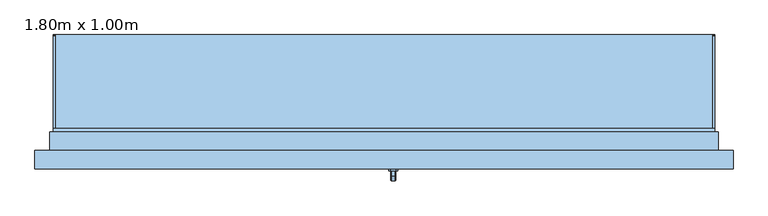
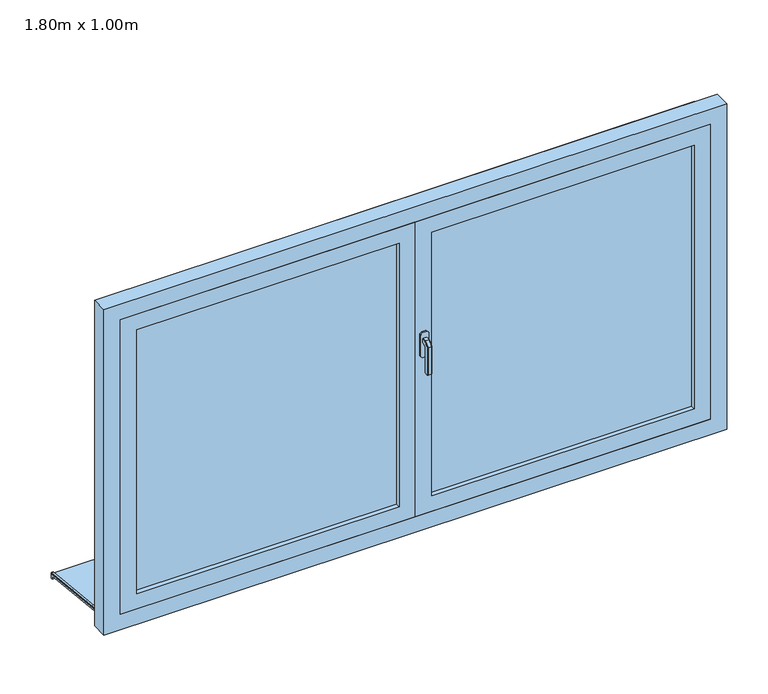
"""IFC4 building model written with IfcOpenShell, lengths in millimetres: window geometry, 2 Vantaux - Droits : 1.80m x 1.00m."""

import ifcopenshell
import ifcopenshell.guid

model = None  # the IFC model being written
_history = None  # IfcOwnerHistory: only IFC2X3 demands one
_inside = {}  # id of a spatial element -> (the spatial element, [elements in it])
_under = {}  # id of a project, library or spatial element -> (it, [spatial elements below it])
_declared = {}  # id of a project -> (the project, [libraries it declares])
_typed = {}  # id of a type object -> (the type object, [elements of that type])
_made_of = {}  # id of a material, layer set ... -> (it, [elements and type objects made of it])


def new_model(schema):
    """Start an empty IFC model of exactly this schema.

    Asked for "IFC4X3", IfcOpenShell would pick the latest addendum, in which some entities
    have other attributes; the version numbers below select the first issue.
    IFC2X3 requires an IfcOwnerHistory on every rooted entity: one is made here for all.
    """
    global model, _history
    if schema == "IFC4X3":
        model = ifcopenshell.file(schema_version=(4, 3, 0, 0))
    else:
        model = ifcopenshell.file(schema=schema)
    _inside.clear()
    _under.clear()
    _declared.clear()
    _typed.clear()
    _made_of.clear()
    _history = None
    if model.schema == "IFC2X3":
        org = make("IfcOrganization", Name="unknown")
        user = make(
            "IfcPersonAndOrganization",
            ThePerson=make("IfcPerson", FamilyName="unknown"),
            TheOrganization=org,
        )
        app = make(
            "IfcApplication",
            ApplicationDeveloper=org,
            Version="unknown",
            ApplicationFullName="unknown",
            ApplicationIdentifier="unknown",
        )
        _history = make(
            "IfcOwnerHistory",
            OwningUser=user,
            OwningApplication=app,
            ChangeAction="ADDED",
            CreationDate=0,
        )
    return model


def make(cls, **values):
    """One entity of the class cls with the attributes given. An attribute that is None is left unset."""
    return model.create_entity(
        cls, **{name: value for name, value in values.items() if value is not None}
    )


def rooted(cls, **values):
    """An entity with a GlobalId (a new one), such as an element, a storey or a relation."""
    return make(cls, GlobalId=ifcopenshell.guid.new(), OwnerHistory=_history, **values)


def si_unit(unit_type, name, prefix=None):
    """IfcSIUnit, for example si_unit("LENGTHUNIT", "METRE", prefix="MILLI")."""
    return make("IfcSIUnit", UnitType=unit_type, Prefix=prefix, Name=name)


def assignment(units):
    """IfcUnitAssignment: the units of a project."""
    return None if units is None else make("IfcUnitAssignment", Units=units)


def point(xyz):
    """IfcCartesianPoint."""
    return None if xyz is None else make("IfcCartesianPoint", Coordinates=xyz)


def direction(xyz):
    """IfcDirection."""
    return None if xyz is None else make("IfcDirection", DirectionRatios=xyz)


def frame(location, z_axis=None, x_axis=None):
    """IfcAxis2Placement3D, a coordinate frame: its origin and axes. An axis left out is left unset."""
    return make(
        "IfcAxis2Placement3D",
        Location=point(location),
        Axis=direction(z_axis),
        RefDirection=direction(x_axis),
    )


def frame_2d(location, x_axis=None):
    """IfcAxis2Placement2D, a coordinate frame in the plane: its origin and x axis."""
    return make(
        "IfcAxis2Placement2D", Location=point(location), RefDirection=direction(x_axis)
    )


def origin():
    """The frame at (0, 0, 0) with its axes left unset."""
    return frame((0.0, 0.0, 0.0))


def place(relative_to, where):
    """IfcLocalPlacement: puts the frame where relative to a parent placement (None: the world)."""
    return make(
        "IfcLocalPlacement", PlacementRelTo=relative_to, RelativePlacement=where
    )


def context(
    kind, dimensions, precision=None, world=None, true_north=None, identifier=None
):
    """IfcGeometricRepresentationContext, for example the 3D "Model" context."""
    return make(
        "IfcGeometricRepresentationContext",
        ContextIdentifier=identifier,
        ContextType=kind,
        CoordinateSpaceDimension=dimensions,
        Precision=precision,
        WorldCoordinateSystem=world,
        TrueNorth=true_north,
    )


def project(units=None, contexts=None):
    """IfcProject with its units and contexts."""
    return rooted(
        "IfcProject",
        Name="project",
        RepresentationContexts=contexts,
        UnitsInContext=assignment(units),
    )


def spatial(cls, under=None, at=None, **own):
    """A site, building, storey or space (cls), placed at a placement, below another one or the project."""
    s = rooted(cls, ObjectPlacement=at, **own)
    if under is not None:
        _under.setdefault(under.id(), (under, []))[1].append(s)
    return s


def polyline(points):
    """IfcPolyline through the points."""
    return make("IfcPolyline", Points=[point(p) for p in points])


def circle_curve(where, radius):
    """IfcCircle in the frame where."""
    return make("IfcCircle", Position=where, Radius=radius)


def trimmed(basis, trim1, trim2, sense, master):
    """IfcTrimmedCurve: the piece of a basis curve between two trims."""
    return make(
        "IfcTrimmedCurve",
        BasisCurve=basis,
        Trim1=trim1,
        Trim2=trim2,
        SenseAgreement=sense,
        MasterRepresentation=master,
    )


def segment(curve, same_sense, transition):
    """IfcCompositeCurveSegment."""
    return make(
        "IfcCompositeCurveSegment",
        Transition=transition,
        SameSense=same_sense,
        ParentCurve=curve,
    )


def composite_curve(segments, self_intersect=None):
    """IfcCompositeCurve: segments joined end to end."""
    return make("IfcCompositeCurve", Segments=segments, SelfIntersect=self_intersect)


def outline(outer, holes=None, kind="AREA"):
    """IfcArbitraryClosedProfileDef: a profile drawn as a closed curve; with holes, ...WithVoids."""
    if holes is None:
        return make("IfcArbitraryClosedProfileDef", ProfileType=kind, OuterCurve=outer)
    return make(
        "IfcArbitraryProfileDefWithVoids",
        ProfileType=kind,
        OuterCurve=outer,
        InnerCurves=holes,
    )


def extrude(swept, where, along, depth):
    """IfcExtrudedAreaSolid: the profile swept, set in the frame where, extruded along a direction by depth."""
    return make(
        "IfcExtrudedAreaSolid",
        SweptArea=swept,
        Position=where,
        ExtrudedDirection=direction(along),
        Depth=depth,
    )


def faces_of(points, faces, orient=None, outer=None):
    """IfcFace entities. A face is a list of loops; a loop is a list of indices into points, from 0.

    orient and outer hold one flag for each loop. By default every Orientation is true, the
    first loop of a face is its IfcFaceOuterBound and the others are IfcFaceBound.
    """
    made = []
    for i, loops in enumerate(faces):
        bounds = []
        for j, loop in enumerate(loops):
            is_outer = j == 0 if outer is None else outer[i][j]
            bounds.append(
                make(
                    "IfcFaceOuterBound" if is_outer else "IfcFaceBound",
                    Bound=make("IfcPolyLoop", Polygon=[points[k] for k in loop]),
                    Orientation=True if orient is None else orient[i][j],
                )
            )
        made.append(make("IfcFace", Bounds=bounds))
    return made


def faceted_brep(points, faces, orient=None, outer=None, voids=None):
    """IfcFacetedBrep: a solid bounded by flat faces; with voids (closed shells), ...WithVoids."""
    shared = [point(p) for p in points]
    hull = make("IfcClosedShell", CfsFaces=faces_of(shared, faces, orient, outer))
    if voids is None:
        return make("IfcFacetedBrep", Outer=hull)
    return make(
        "IfcFacetedBrepWithVoids",
        Outer=hull,
        Voids=[
            make(cls, CfsFaces=faces_of(shared, fs, o, b)) for cls, fs, o, b in voids
        ],
    )


def shape(context_of_items, identifier, shape_type, items):
    """IfcShapeRepresentation: the items that make up one representation, for example the "Body"."""
    return make(
        "IfcShapeRepresentation",
        ContextOfItems=context_of_items,
        RepresentationIdentifier=identifier,
        RepresentationType=shape_type,
        Items=items,
    )


def source(mapping_origin, context_of_items, identifier, shape_type, items):
    """IfcRepresentationMap: a shape defined once, which mapped items show again and again."""
    return make(
        "IfcRepresentationMap",
        MappingOrigin=mapping_origin,
        MappedRepresentation=shape(context_of_items, identifier, shape_type, items),
    )


def transform(
    local_origin,
    x_axis=None,
    y_axis=None,
    z_axis=None,
    scale=None,
    scale2=None,
    scale3=None,
    uniform=True,
):
    """IfcCartesianTransformationOperator3D, or its non-uniform kind. x_axis, y_axis, z_axis: its Axis1, 2, 3."""
    if uniform:
        return make(
            "IfcCartesianTransformationOperator3D",
            Axis1=direction(x_axis),
            Axis2=direction(y_axis),
            LocalOrigin=point(local_origin),
            Scale=scale,
            Axis3=direction(z_axis),
        )
    return make(
        "IfcCartesianTransformationOperator3DnonUniform",
        Axis1=direction(x_axis),
        Axis2=direction(y_axis),
        LocalOrigin=point(local_origin),
        Scale=scale,
        Axis3=direction(z_axis),
        Scale2=scale2,
        Scale3=scale3,
    )


def mapped(mapping_source, mapping_target):
    """IfcMappedItem: shows the shape of a source again, moved by a transform."""
    return make(
        "IfcMappedItem", MappingSource=mapping_source, MappingTarget=mapping_target
    )


def made_of(thing, what):
    """Note that an element or type object is made of a material, layer set ...; save() writes the relation."""
    if what is not None:
        _made_of.setdefault(what.id(), (what, []))[1].append(thing)
    return thing


def element(
    cls,
    number,
    at=None,
    inside=None,
    cuts=None,
    type_object=None,
    material=None,
    context=None,
    identifier="Body",
    shape_type=None,
    held_by="IfcProductDefinitionShape",
    body=None,
    shapes=None,
    **own,
):
    """One element of the class cls, such as IfcWall. Its Tag is "e" and its number.

    at: its placement. inside: the storey or other place that contains it. cuts: it is an
    opening in that element (IfcRelVoidsElement). A single representation is given by context,
    identifier, shape_type and body (its items); several are given by shapes. held_by: the class
    of the entity that holds the representations. save() writes the other relations.
    """
    e = rooted(cls, Tag="e%d" % number, ObjectPlacement=at, **own)
    if body is not None:
        shapes = [shape(context, identifier, shape_type, body)]
    if shapes is not None:
        e.Representation = make(held_by, Representations=shapes)
    if inside is not None:
        _inside.setdefault(inside.id(), (inside, []))[1].append(e)
    if cuts is not None:
        rooted(
            "IfcRelVoidsElement", RelatingBuildingElement=cuts, RelatedOpeningElement=e
        )
    if type_object is not None:
        _typed.setdefault(type_object.id(), (type_object, []))[1].append(e)
    return made_of(e, material)


def aggregate(whole, parts):
    """IfcRelAggregates: a whole, such as a stair, and the parts it consists of."""
    return rooted("IfcRelAggregates", RelatingObject=whole, RelatedObjects=parts)


def save(model, path):
    """Write the relations noted so far, then the file.

    IfcRelAggregates (storeys below a building ...), IfcRelContainedInSpatialStructure (elements
    in a storey), IfcRelDefinesByType, IfcRelAssociatesMaterial and IfcRelDeclares: one each for
    every whole, place, type object, material and project.
    """
    for whole, parts in _under.values():
        aggregate(whole, parts)
    for where, things in _inside.values():
        rooted(
            "IfcRelContainedInSpatialStructure",
            RelatedElements=things,
            RelatingStructure=where,
        )
    for kind, things in _typed.values():
        rooted("IfcRelDefinesByType", RelatedObjects=things, RelatingType=kind)
    for what, things in _made_of.values():
        rooted("IfcRelAssociatesMaterial", RelatedObjects=things, RelatingMaterial=what)
    for by, libraries in _declared.values():
        rooted("IfcRelDeclares", RelatingContext=by, RelatedDefinitions=libraries)
    model.write(path)


def window_1_80m_x_1_00m_00121215(model_context):
    return source(origin(), model_context, "Body", "SolidModel", [
        faceted_brep([(30.6460097, -181.0, 1422.0339292), (32.0339292, -181.0, 1420.6460097), (32.0339292, -181.0, 1409.3323012), (30.6676988, -181.0, 1407.9660708), (19.3323012, -181.0, 1407.9660708), (17.9660708, -181.0, 1409.3323012), (17.9660708, -181.0, 1420.6460097), (19.3539903, -181.0, 1422.0339292), (30.6460097, -193.9135489, 1422.0339292), (32.0339292, -193.3386538, 1420.6460097), (32.0339292, -206.6460097, 1407.3386538), (32.0339292, -206.6460097, 1320.0), (32.0339292, -195.3323012, 1320.0), (32.0339292, -195.3323012, 1402.6523623), (32.0339292, -188.6523623, 1409.3323012), (30.6676988, -188.0864511, 1407.9660708), (19.3323012, -188.0864511, 1407.9660708), (17.9660708, -188.6523623, 1409.3323012), (17.9660708, -195.3323012, 1402.6523623), (17.9660708, -195.3323012, 1320.0), (17.9660708, -206.6460097, 1320.0), (17.9660708, -206.6460097, 1407.3386538), (17.9660708, -193.3386538, 1420.6460097), (19.3539903, -193.9135489, 1422.0339292), (30.6460097, -208.0339292, 1407.9135489), (30.6676988, -193.9660708, 1402.0864511), (19.3323012, -193.9660708, 1402.0864511), (19.3539903, -208.0339292, 1407.9135489), (30.6460097, -208.0339292, 1320.0), (19.3539903, -208.0339292, 1320.0), (19.3323012, -193.9660708, 1320.0), (30.6676988, -193.9660708, 1320.0)], [[[0, 1, 2, 3, 4, 5, 6, 7]], [[1, 0, 8, 9]], [[2, 1, 9, 10, 11, 12, 13, 14]], [[3, 2, 14, 15]], [[4, 3, 15, 16]], [[5, 4, 16, 17]], [[6, 5, 17, 18, 19, 20, 21, 22]], [[7, 6, 22, 23]], [[0, 7, 23, 8]], [[9, 8, 24, 10]], [[15, 14, 13, 25]], [[16, 15, 25, 26]], [[17, 16, 26, 18]], [[23, 22, 21, 27]], [[8, 23, 27, 24]], [[28, 29, 20, 19, 30, 31, 12, 11]], [[10, 24, 28, 11]], [[25, 13, 12, 31]], [[26, 25, 31, 30]], [[18, 26, 30, 19]], [[27, 21, 20, 29]], [[24, 27, 29, 28]]]),
        extrude(outline(polyline([(1440.0, 32.0), (1440.0, 18.0), (1435.0, 13.0), (1365.0, 13.0), (1360.0, 18.0), (1360.0, 32.0), (1365.0, 37.0), (1435.0, 37.0), (1440.0, 32.0)])), frame((0.0, -181.0, 0.0), z_axis=(0.0, 1.0, 0.0), x_axis=(0.0, 0.0, 1.0)), (0.0, 0.0, 1.0), 6.0),
        extrude(outline(polyline([(190.0, 760.3005047), (190.0, 744.7447882), (185.0, 745.2703094), (185.0, 755.5708141), (-95.0, 785.0), (-95.0, 800.0), (-90.0, 800.0), (-90.0, 789.7296906), (190.0, 760.3005047)])), frame((-900.0, 0.0, 0.0), z_axis=(1.0, 0.0, 0.0), x_axis=(0.0, 1.0, 0.0)), (0.0, 0.0, 1.0), 1800.0),
        extrude(outline(composite_curve([segment(polyline([(190.0, 760.3005047), (-90.0, 789.7296906), (-90.0, 794.757232), (186.4181139, 765.7045175)]), True, "CONTINUOUS"), segment(trimmed(circle_curve(frame_2d((186.0, 761.7264299)), 4.0), [point((186.4181139, 765.7045175))], [point((190.0, 761.7264299))], False, "CARTESIAN"), True, "CONTINUOUS"), segment(polyline([(190.0, 761.7264299), (190.0, 760.3005047)]), True, "CONTINUOUS")], self_intersect=False)), frame((-900.0, 0.0, 0.0), z_axis=(1.0, 0.0, 0.0), x_axis=(0.0, 1.0, 0.0)), (0.0, 0.0, 1.0), 5.0),
        extrude(outline(composite_curve([segment(polyline([(190.0, 760.3005047), (-90.0, 789.7296906), (-90.0, 794.757232), (186.4181139, 765.7045175)]), True, "CONTINUOUS"), segment(trimmed(circle_curve(frame_2d((186.0, 761.7264299)), 4.0), [point((186.4181139, 765.7045175))], [point((190.0, 761.7264299))], False, "CARTESIAN"), True, "CONTINUOUS"), segment(polyline([(190.0, 761.7264299), (190.0, 760.3005047)]), True, "CONTINUOUS")], self_intersect=False)), frame((895.0, 0.0, 0.0), z_axis=(1.0, 0.0, 0.0), x_axis=(0.0, 1.0, 0.0)), (0.0, 0.0, 1.0), 5.0),
        extrude(outline(polyline([(800.0, -910.0), (800.0, -900.0), (1800.0, -900.0), (1800.0, 900.0), (800.0, 900.0), (800.0, 910.0), (1810.0, 910.0), (1810.0, -910.0), (800.0, -910.0)])), frame((0.0, -125.0, 0.0), z_axis=(0.0, 1.0, 0.0), x_axis=(0.0, 0.0, 1.0)), (0.0, 0.0, 1.0), 50.0),
        faceted_brep([(-950.0, -175.0, 800.0), (-950.0, -125.0, 800.0), (-900.0, -125.0, 800.0), (-900.0, -75.0, 800.0), (900.0, -75.0, 800.0), (900.0, -125.0, 800.0), (950.0, -125.0, 800.0), (950.0, -175.0, 800.0), (-950.0, -175.0, 1850.0), (-950.0, -125.0, 1850.0), (950.0, -125.0, 1850.0), (900.0, -125.0, 839.3761425), (-900.0, -125.0, 839.3761425), (-885.0, -125.0, 1785.0), (-885.0, -125.0, 865.0), (885.0, -125.0, 865.0), (885.0, -125.0, 1785.0), (-900.0, -65.0, 823.2991909), (-900.0, -65.0, 795.0), (-900.0, -75.0, 795.0), (900.0, -75.0, 795.0), (900.0, -65.0, 795.0), (900.0, -65.0, 823.2991909), (950.0, -175.0, 1850.0), (900.0, -175.0, 1800.0), (900.0, -175.0, 850.0), (-900.0, -175.0, 850.0), (-900.0, -175.0, 1800.0), (-885.0, -135.0, 1785.0), (-885.0, -135.0, 865.0), (885.0, -135.0, 865.0), (885.0, -135.0, 1785.0), (900.0, -135.0, 1800.0), (-900.0, -135.0, 1800.0), (-900.0, -135.0, 850.0), (900.0, -135.0, 850.0)], [[[0, 1, 2, 3, 4, 5, 6, 7]], [[1, 0, 8, 9]], [[1, 9, 10, 6, 5, 11, 12, 2], [13, 14, 15, 16]], [[12, 17, 18, 19, 3, 2]], [[3, 19, 20, 4]], [[4, 20, 21, 22, 11, 5]], [[6, 10, 23, 7]], [[0, 7, 23, 8], [24, 25, 26, 27]], [[13, 28, 29, 14]], [[29, 30, 15, 14]], [[31, 16, 15, 30]], [[17, 12, 11, 22]], [[32, 33, 34, 35], [28, 31, 30, 29]], [[34, 33, 27, 26]], [[26, 25, 35, 34]], [[24, 32, 35, 25]], [[18, 17, 22, 21]], [[19, 18, 21, 20]], [[13, 16, 31, 28]], [[33, 32, 24, 27]], [[10, 9, 8, 23]]]),
        extrude(outline(polyline([(850.0, 900.0), (1800.0, 900.0), (1800.0, 0.0), (850.0, 0.0), (850.0, 900.0)]), holes=[polyline([(900.0, 50.0), (1750.0, 50.0), (1750.0, 850.0), (900.0, 850.0), (900.0, 50.0)])]), frame((0.0, -175.0, 0.0), z_axis=(0.0, 1.0, 0.0), x_axis=(0.0, 0.0, 1.0)), (0.0, 0.0, 1.0), 40.0),
        extrude(outline(polyline([(50.0, -149.0), (850.0, -149.0), (850.0, -161.0), (50.0, -161.0), (50.0, -149.0)])), frame((0.0, 0.0, 900.0), z_axis=(0.0, 0.0, 1.0), x_axis=(1.0, 0.0, 0.0)), (0.0, 0.0, 1.0), 850.0),
        extrude(outline(polyline([(-850.0, -149.0), (-50.0, -149.0), (-50.0, -161.0), (-850.0, -161.0), (-850.0, -149.0)])), frame((0.0, 0.0, 900.0), z_axis=(0.0, 0.0, 1.0), x_axis=(1.0, 0.0, 0.0)), (0.0, 0.0, 1.0), 850.0),
        extrude(outline(polyline([(850.0, 0.0), (1800.0, 0.0), (1800.0, -900.0), (850.0, -900.0), (850.0, 0.0)]), holes=[polyline([(900.0, -850.0), (1750.0, -850.0), (1750.0, -50.0), (900.0, -50.0), (900.0, -850.0)])]), frame((0.0, -175.0, 0.0), z_axis=(0.0, 1.0, 0.0), x_axis=(0.0, 0.0, 1.0)), (0.0, 0.0, 1.0), 40.0),
        extrude(outline(polyline([(20.0, -127.0), (20.0, -135.0), (-20.0, -135.0), (-20.0, -127.0), (20.0, -127.0)])), frame((0.0, 0.0, 865.0), z_axis=(0.0, 0.0, 1.0), x_axis=(1.0, 0.0, 0.0)), (0.0, 0.0, 1.0), 920.0),
    ])


if __name__ == "__main__":
    model = new_model("IFC4")
    model_context = context("Model", 3, world=origin())
    ifc_project = project(units=[si_unit("LENGTHUNIT", "METRE", prefix="MILLI")], contexts=[model_context])
    site = spatial("IfcSite", under=ifc_project)
    building = spatial("IfcBuilding", under=site)
    placement = place(None, origin())
    window_1_80m_x_1_00m_shape = window_1_80m_x_1_00m_00121215(model_context)
    element("IfcWindow", 1, ObjectType="2 Vantaux - Droits : 1.80m x 1.00m", at=placement, inside=building, context=model_context, shape_type="MappedRepresentation", body=[
        mapped(window_1_80m_x_1_00m_shape, transform((0.0, 0.0, 0.0), x_axis=(1.0, 0.0, 0.0), y_axis=(0.0, 1.0, 0.0), z_axis=(0.0, 0.0, 1.0))),
    ])
    save(model, "model.ifc")
